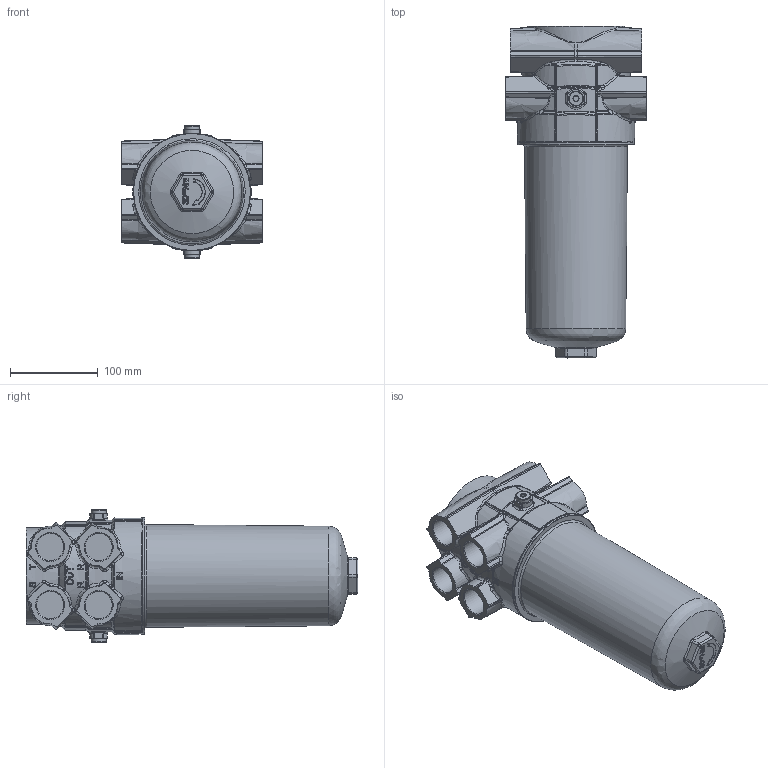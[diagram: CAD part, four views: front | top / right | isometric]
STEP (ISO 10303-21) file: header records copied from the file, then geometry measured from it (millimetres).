
FILE_DESCRIPTION((''),'2;1');
FILE_NAME('U:\Users\r.stiegele\E_258-156.stp','2014-05-14T10:19:26', ('User'),('SDRC'),'I-DEAS Master Series 9','UNIX','Yes');
FILE_SCHEMA(('AUTOMOTIVE_DESIGN { 1 0 10303 214 1 1 1 1 }'));
Length unit declared in the file: millimetre
Products named in the file (1): E 258-156
Bounding box: 160 x 377.2 x 151.2 mm (x, y, z)
Volume: 4250556.3 mm3; surface area: 212305.4 mm2
Topology: 1 solids, 3 shells, 1502 faces, 3632 edges, 2064 vertices
Faces by surface type: bspline 1502
Entity records: 59246 total; most frequent: CARTESIAN_POINT 39035, ORIENTED_EDGE 7026, EDGE_CURVE 3513, B_SPLINE_CURVE_WITH_KNOTS 2106, VERTEX_POINT 2064, EDGE_LOOP 1553, FACE_OUTER_BOUND 1502, ADVANCED_FACE 1502
